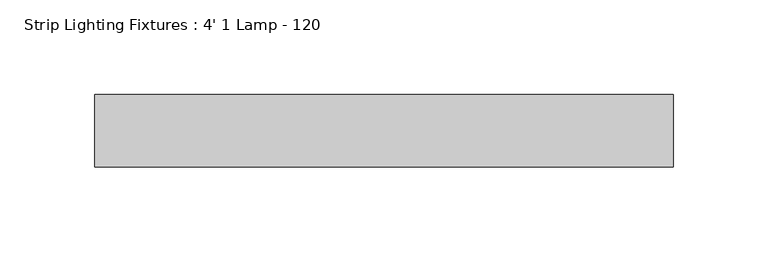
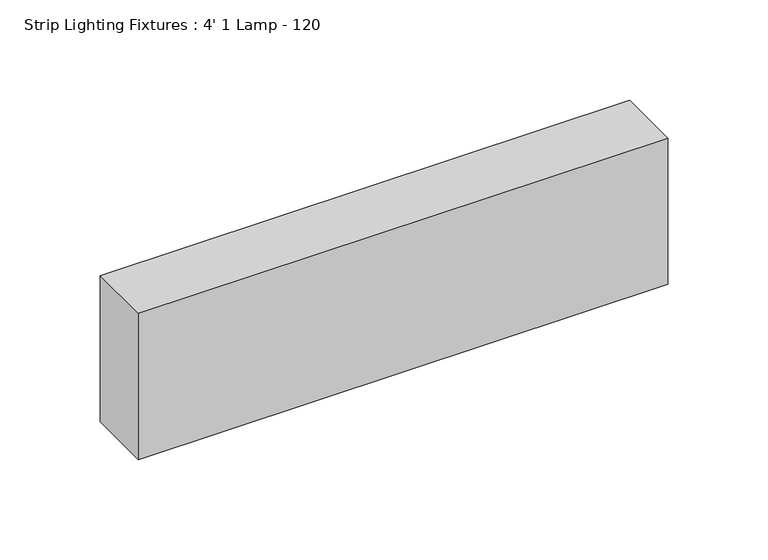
"""IFC4 building model written with IfcOpenShell, lengths in millimetres: light fixture geometry, Strip Lighting Fixtures : 4' 1 Lamp - 120."""

from ifc_helpers import new_model, si_unit, origin, origin_with_axes, place, context, project, spatial, polyline, outline, extrude, source, transform, mapped, element, save


def strip_lighting_fixtures_4_1_lamp_120_3e8fa4b9(model_context):
    return source(origin(), model_context, "Body", "SweptSolid", [
        extrude(outline(polyline([(304.8, 19.05), (304.8, -19.05), (0.0, -19.05), (0.0, 19.05), (304.8, 19.05)])), origin_with_axes(), (0.0, 0.0, 1.0), 88.9),
    ])


if __name__ == "__main__":
    model = new_model("IFC4")
    model_context = context("Model", 3, world=origin())
    ifc_project = project(units=[si_unit("LENGTHUNIT", "METRE", prefix="MILLI")], contexts=[model_context])
    site = spatial("IfcSite", under=ifc_project)
    building = spatial("IfcBuilding", under=site)
    placement = place(None, origin())
    strip_lighting_fixtures_4_1_lamp_120_shape = strip_lighting_fixtures_4_1_lamp_120_3e8fa4b9(model_context)
    element("IfcLightFixture", 1, ObjectType="Strip Lighting Fixtures : 4' 1 Lamp - 120", at=placement, inside=building, context=model_context, shape_type="MappedRepresentation", body=[
        mapped(strip_lighting_fixtures_4_1_lamp_120_shape, transform((0.0, 0.0, 0.0), x_axis=(1.0, 0.0, 0.0), y_axis=(0.0, 1.0, 0.0), z_axis=(0.0, 0.0, 1.0))),
    ])
    save(model, "model.ifc")
